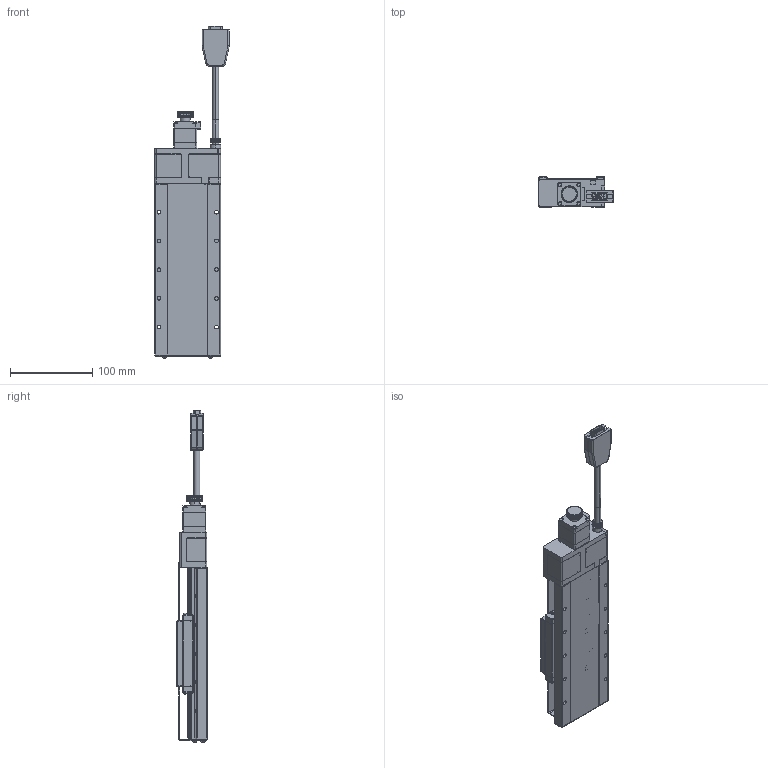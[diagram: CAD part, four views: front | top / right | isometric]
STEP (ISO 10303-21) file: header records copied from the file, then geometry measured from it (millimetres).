
FILE_DESCRIPTION (( 'STEP AP203' ), '1' );
FILE_NAME ('CXC80100-S2?N.STEP', '2023-09-28T08:39:39', ( '' ), ( '' ), 'SwSTEP 2.0', 'SolidWorks 2019', '' );
FILE_SCHEMA (( 'CONFIG_CONTROL_DESIGN' ));
Products named in the file (4): Group2^CXC80100-S2?N(2023新版)_defeature_GMT; Group1^CXC80100-S2?N(2023新版)_defeature_GMT; CXC80100-S2?N; CXN80-1_GMT
Assembly tree (3 placements, depth 2):
  CXC80100-S2?N
    Group1^CXC80100-S2?N(2023新版)_defeature_GMT
    Group2^CXC80100-S2?N(2023新版)_defeature_GMT
    CXN80-1_GMT
Bounding box: 90.5 x 37 x 404.45 mm (x, y, z)
Volume: 71961.7 mm3; surface area: 174587.1 mm2
Topology: 22 solids, 26 shells, 4121 faces, 10674 edges, 6594 vertices
Faces by surface type: plane 1556, cylinder 1278, cone 475, torus 412, bspline 252, sphere 148
Entity records: 138172 total; most frequent: CARTESIAN_POINT 38243, ORIENTED_EDGE 21076, DIRECTION 21055, EDGE_CURVE 10538, AXIS2_PLACEMENT_3D 8024, VERTEX_POINT 6586, LINE 5007, VECTOR 5007
